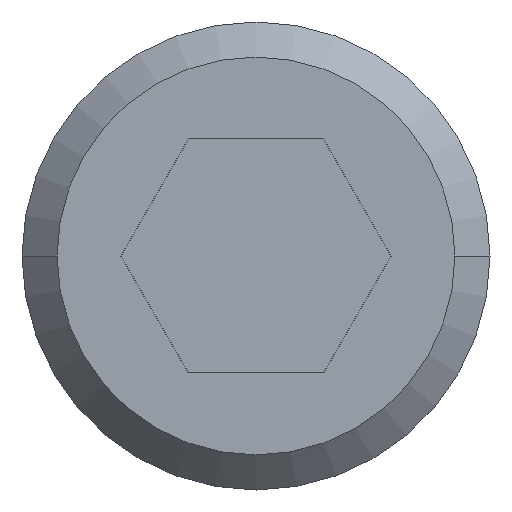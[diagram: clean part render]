
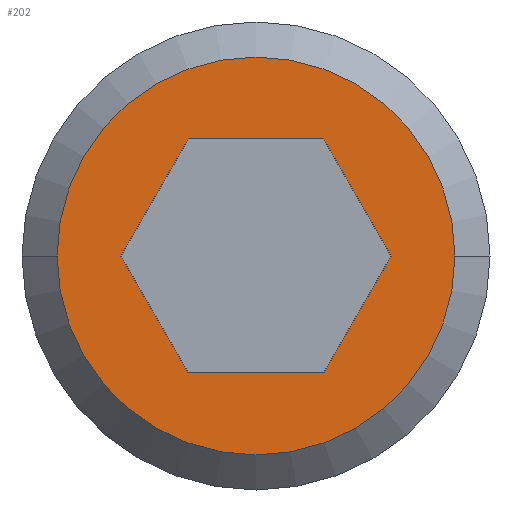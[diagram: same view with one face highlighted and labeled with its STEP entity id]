
A CAD part, front view. The second image highlights one B-rep face of the part: STEP entity #202.
In plain terms, the highlighted planar face has unit normal (0, -1, 0).
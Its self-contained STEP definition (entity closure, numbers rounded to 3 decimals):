
#1=DIRECTION('',(-1.,0.,0.));
#2=VECTOR('',#1,2.309);
#3=CARTESIAN_POINT('',(1.155,0.,2.));
#4=LINE('',#3,#2);
#5=DIRECTION('',(-0.5,0.,-0.866));
#6=VECTOR('',#5,2.309);
#7=CARTESIAN_POINT('',(-1.155,0.,2.));
#8=LINE('',#7,#6);
#9=DIRECTION('',(0.5,0.,-0.866));
#10=VECTOR('',#9,2.309);
#11=CARTESIAN_POINT('',(-2.309,0.,0.));
#12=LINE('',#11,#10);
#13=DIRECTION('',(1.,0.,0.));
#14=VECTOR('',#13,2.309);
#15=CARTESIAN_POINT('',(-1.155,0.,-2.));
#16=LINE('',#15,#14);
#17=DIRECTION('',(0.5,0.,0.866));
#18=VECTOR('',#17,2.309);
#19=CARTESIAN_POINT('',(1.155,0.,-2.));
#20=LINE('',#19,#18);
#21=DIRECTION('',(-0.5,0.,0.866));
#22=VECTOR('',#21,2.309);
#23=CARTESIAN_POINT('',(2.309,0.,0.));
#24=LINE('',#23,#22);
#25=CARTESIAN_POINT('',(0.,0.,0.));
#26=DIRECTION('',(0.,1.,0.));
#27=DIRECTION('',(1.,0.,0.));
#28=AXIS2_PLACEMENT_3D('',#25,#26,#27);
#35=CARTESIAN_POINT('',(0.,0.,0.));
#36=DIRECTION('',(0.,1.,0.));
#37=DIRECTION('',(-1.,0.,0.));
#38=AXIS2_PLACEMENT_3D('',#35,#36,#37);
#149=CARTESIAN_POINT('',(1.155,0.,2.));
#150=CARTESIAN_POINT('',(-1.155,0.,2.));
#151=VERTEX_POINT('',#149);
#152=VERTEX_POINT('',#150);
#153=CARTESIAN_POINT('',(-2.309,0.,0.));
#154=VERTEX_POINT('',#153);
#155=CARTESIAN_POINT('',(-1.155,0.,-2.));
#156=VERTEX_POINT('',#155);
#157=CARTESIAN_POINT('',(1.155,0.,-2.));
#158=VERTEX_POINT('',#157);
#159=CARTESIAN_POINT('',(2.309,0.,0.));
#160=VERTEX_POINT('',#159);
#161=CARTESIAN_POINT('',(3.4,0.,0.));
#162=CARTESIAN_POINT('',(-3.4,0.,0.));
#163=VERTEX_POINT('',#161);
#164=VERTEX_POINT('',#162);
#177=CARTESIAN_POINT('',(0.,0.,0.));
#178=DIRECTION('',(0.,1.,0.));
#179=DIRECTION('',(1.,0.,0.));
#180=AXIS2_PLACEMENT_3D('',#177,#178,#179);
#181=PLANE('',#180);
#183=ORIENTED_EDGE('',*,*,#182,.T.);
#185=ORIENTED_EDGE('',*,*,#184,.T.);
#186=EDGE_LOOP('',(#183,#185));
#187=FACE_OUTER_BOUND('',#186,.F.);
#189=ORIENTED_EDGE('',*,*,#188,.T.);
#191=ORIENTED_EDGE('',*,*,#190,.T.);
#193=ORIENTED_EDGE('',*,*,#192,.T.);
#195=ORIENTED_EDGE('',*,*,#194,.T.);
#197=ORIENTED_EDGE('',*,*,#196,.T.);
#199=ORIENTED_EDGE('',*,*,#198,.T.);
#200=EDGE_LOOP('',(#189,#191,#193,#195,#197,#199));
#201=FACE_BOUND('',#200,.F.);
#202=ADVANCED_FACE('',(#187,#201),#181,.F.);
#29=CIRCLE('',#28,3.4);
#39=CIRCLE('',#38,3.4);
#182=EDGE_CURVE('',#163,#164,#29,.T.);
#184=EDGE_CURVE('',#164,#163,#39,.T.);
#188=EDGE_CURVE('',#151,#152,#4,.T.);
#190=EDGE_CURVE('',#152,#154,#8,.T.);
#192=EDGE_CURVE('',#154,#156,#12,.T.);
#194=EDGE_CURVE('',#156,#158,#16,.T.);
#196=EDGE_CURVE('',#158,#160,#20,.T.);
#198=EDGE_CURVE('',#160,#151,#24,.T.);
